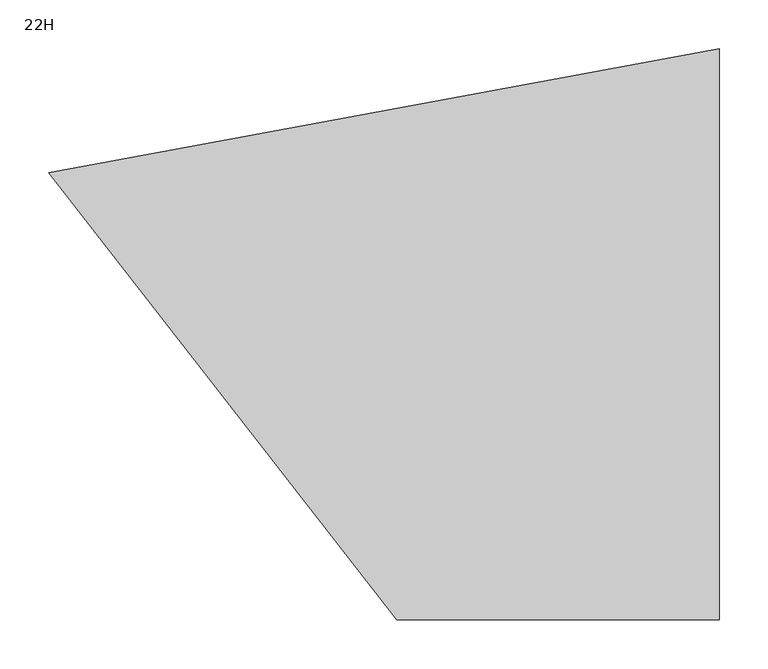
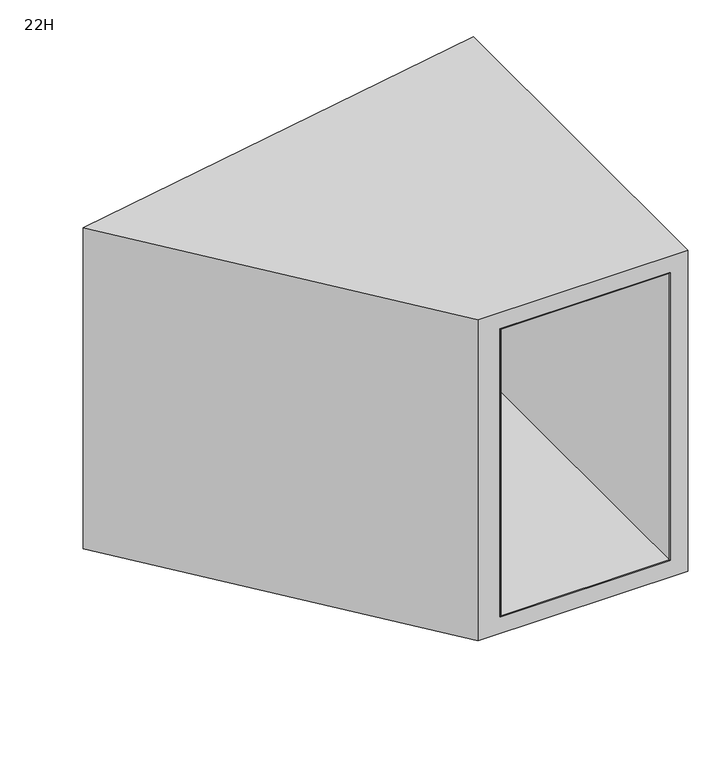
"""IFC4 building model written with IfcOpenShell, lengths in millimetres: furniture geometry, Steelcase Coalesse - Sebastopol - Table - Small (1) : 22H."""

from ifc_helpers import new_model, si_unit, point, frame, frame_2d, origin, origin_with_axes, place, context, project, spatial, polyline, circle_curve, trimmed, segment, composite_curve, outline, extrude, faceted_brep, source, transform, mapped, element, save


def furniture_22h_b340dc4a(model_context):
    return source(origin(), model_context, "Body", "SolidModel", [
        extrude(outline(polyline([(-28.8798, -5.3450123), (-28.8798, -584.2), (-293.6029229, -584.2), (-654.1401583, -121.0668767), (-28.8798, -5.3450123)])), frame((0.0, 0.0, 53.0098003), z_axis=(0.0, 0.0, 1.0), x_axis=(1.0, 0.0, 0.0)), (0.0, 0.0, 1.0), 1.2699997),
        extrude(outline(polyline([(-28.8798, -5.3450121), (-28.8798, -584.2), (-293.6029238, -584.2), (-654.1401592, -121.0668767), (-28.8798, -5.3450121)])), frame((0.0, 0.0, 530.1742), z_axis=(0.0, 0.0, 1.0), x_axis=(1.0, 0.0, 0.0)), (0.0, 0.0, 1.0), 1.0160148),
        extrude(outline(polyline([(-28.8798, -5.3450124), (-27.6097996, -5.1099634), (-27.6097996, -584.2), (-28.8798, -584.2), (-28.8798, -5.3450124)])), frame((0.0, 0.0, 53.0098003), z_axis=(0.0, 0.0, 1.0), x_axis=(1.0, 0.0, 0.0)), (0.0, 0.0, 1.0), 478.1804145),
        extrude(outline(polyline([(-654.1401467, -121.0668915), (-293.6008661, -584.1999904), (-295.210327, -584.1999904), (-655.5469207, -121.3272543), (-654.1401467, -121.0668915)])), frame((0.0, 0.0, 53.0098003), z_axis=(0.0, 0.0, 1.0), x_axis=(1.0, 0.0, 0.0)), (0.0, 0.0, 1.0), 478.1804145),
        extrude(outline(composite_curve([segment(trimmed(circle_curve(frame_2d((-303.6026265, -530.8298119)), 17.272), [point((-320.8746265, -530.8298119))], [point((-286.3306265, -530.8298119))], False, "CARTESIAN"), True, "CONTINUOUS"), segment(trimmed(circle_curve(frame_2d((-303.6026265, -530.8298119)), 17.272), [point((-286.3306265, -530.8298119))], [point((-320.8746265, -530.8298119))], False, "CARTESIAN"), True, "CONTINUOUS")], self_intersect=False)), origin_with_axes(), (0.0, 0.0, 1.0), 13.97),
        extrude(outline(composite_curve([segment(trimmed(circle_curve(frame_2d((-54.1946691, -530.8298119)), 17.272), [point((-71.4666691, -530.8298119))], [point((-36.9226691, -530.8298119))], False, "CARTESIAN"), True, "CONTINUOUS"), segment(trimmed(circle_curve(frame_2d((-54.1946691, -530.8298119)), 17.272), [point((-36.9226691, -530.8298119))], [point((-71.4666691, -530.8298119))], False, "CARTESIAN"), True, "CONTINUOUS")], self_intersect=False)), origin_with_axes(), (0.0, 0.0, 1.0), 13.97),
        extrude(outline(composite_curve([segment(trimmed(circle_curve(frame_2d((-54.1946691, -64.3766294)), 17.272), [point((-71.4666691, -64.3766294))], [point((-36.9226691, -64.3766294))], False, "CARTESIAN"), True, "CONTINUOUS"), segment(trimmed(circle_curve(frame_2d((-54.1946691, -64.3766294)), 17.272), [point((-36.9226691, -64.3766294))], [point((-71.4666691, -64.3766294))], False, "CARTESIAN"), True, "CONTINUOUS")], self_intersect=False)), origin_with_axes(), (0.0, 0.0, 1.0), 13.97),
        extrude(outline(composite_curve([segment(trimmed(circle_curve(frame_2d((-589.7671168, -163.6088416)), 17.272), [point((-607.0391168, -163.6088416))], [point((-572.4951168, -163.6088416))], False, "CARTESIAN"), True, "CONTINUOUS"), segment(trimmed(circle_curve(frame_2d((-589.7671168, -163.6088416)), 17.272), [point((-572.4951168, -163.6088416))], [point((-607.0391168, -163.6088416))], False, "CARTESIAN"), True, "CONTINUOUS")], self_intersect=False)), origin_with_axes(), (0.0, 0.0, 1.0), 13.97),
        faceted_brep([(-686.1302102, -126.9875278, 558.8), (-330.2000121, -584.1999879, 558.8), (0.0, -584.1999879, 558.8), (0.0, 0.0, 558.8), (-686.1302102, -126.9875278, 25.4000008), (0.0, 0.0, 25.4000008), (0.0, -584.1999879, 25.4000008), (-330.2000121, -584.1999879, 25.4000008), (-295.2103195, -584.1999879, 531.1902148), (-27.6097996, -584.1999879, 531.1902148), (-27.6097996, -584.1999879, 53.0098003), (-295.2103195, -584.1999879, 53.0098003), (-27.6097996, -5.1099633, 531.1902148), (-655.5469323, -121.3272394, 531.1902148), (-655.5469323, -121.3272394, 53.0098003), (-27.6097996, -5.1099633, 53.0098003)], [[[0, 1, 2, 3]], [[4, 5, 6, 7]], [[1, 0, 4, 7]], [[2, 1, 7, 6], [8, 9, 10, 11]], [[3, 2, 6, 5]], [[0, 3, 5, 4], [12, 13, 14, 15]], [[8, 13, 12, 9]], [[10, 15, 14, 11]], [[9, 12, 15, 10]], [[13, 8, 11, 14]]]),
        extrude(outline(composite_curve([segment(trimmed(circle_curve(frame_2d((-303.2565091, -530.7936073)), 4.826), [point((-308.0825091, -530.7936073))], [point((-298.4305091, -530.7936073))], False, "CARTESIAN"), True, "CONTINUOUS"), segment(trimmed(circle_curve(frame_2d((-303.2565091, -530.7936073)), 4.826), [point((-298.4305091, -530.7936073))], [point((-308.0825091, -530.7936073))], False, "CARTESIAN"), True, "CONTINUOUS")], self_intersect=False)), frame((0.0, 0.0, 13.97), z_axis=(0.0, 0.0, 1.0), x_axis=(1.0, 0.0, 0.0)), (0.0, 0.0, 1.0), 11.4300008),
        extrude(outline(composite_curve([segment(trimmed(circle_curve(frame_2d((-53.8485517, -530.7936073)), 4.826), [point((-58.6745517, -530.7936073))], [point((-49.0225517, -530.7936073))], False, "CARTESIAN"), True, "CONTINUOUS"), segment(trimmed(circle_curve(frame_2d((-53.8485517, -530.7936073)), 4.826), [point((-49.0225517, -530.7936073))], [point((-58.6745517, -530.7936073))], False, "CARTESIAN"), True, "CONTINUOUS")], self_intersect=False)), frame((0.0, 0.0, 13.97), z_axis=(0.0, 0.0, 1.0), x_axis=(1.0, 0.0, 0.0)), (0.0, 0.0, 1.0), 11.4300008),
        extrude(outline(composite_curve([segment(trimmed(circle_curve(frame_2d((-53.8485517, -64.3404248)), 4.826), [point((-58.6745517, -64.3404248))], [point((-49.0225517, -64.3404248))], False, "CARTESIAN"), True, "CONTINUOUS"), segment(trimmed(circle_curve(frame_2d((-53.8485517, -64.3404248)), 4.826), [point((-49.0225517, -64.3404248))], [point((-58.6745517, -64.3404248))], False, "CARTESIAN"), True, "CONTINUOUS")], self_intersect=False)), frame((0.0, 0.0, 13.97), z_axis=(0.0, 0.0, 1.0), x_axis=(1.0, 0.0, 0.0)), (0.0, 0.0, 1.0), 11.4300008),
        extrude(outline(composite_curve([segment(trimmed(circle_curve(frame_2d((-589.4209994, -163.5726371)), 4.826), [point((-594.2469994, -163.5726371))], [point((-584.5949994, -163.5726371))], False, "CARTESIAN"), True, "CONTINUOUS"), segment(trimmed(circle_curve(frame_2d((-589.4209994, -163.5726371)), 4.826), [point((-584.5949994, -163.5726371))], [point((-594.2469994, -163.5726371))], False, "CARTESIAN"), True, "CONTINUOUS")], self_intersect=False)), frame((0.0, 0.0, 13.97), z_axis=(0.0, 0.0, 1.0), x_axis=(1.0, 0.0, 0.0)), (0.0, 0.0, 1.0), 11.4300008),
    ])


if __name__ == "__main__":
    model = new_model("IFC4")
    model_context = context("Model", 3, world=origin())
    ifc_project = project(units=[si_unit("LENGTHUNIT", "METRE", prefix="MILLI")], contexts=[model_context])
    site = spatial("IfcSite", under=ifc_project)
    building = spatial("IfcBuilding", under=site)
    placement = place(None, origin())
    furniture_22h_shape = furniture_22h_b340dc4a(model_context)
    element("IfcFurniture", 1, ObjectType="Steelcase Coalesse - Sebastopol - Table - Small (1) : 22H", at=placement, inside=building, context=model_context, shape_type="MappedRepresentation", body=[
        mapped(furniture_22h_shape, transform((0.0, 0.0, 0.0), x_axis=(1.0, 0.0, 0.0), y_axis=(0.0, 1.0, 0.0), z_axis=(0.0, 0.0, 1.0))),
    ])
    save(model, "model.ifc")
